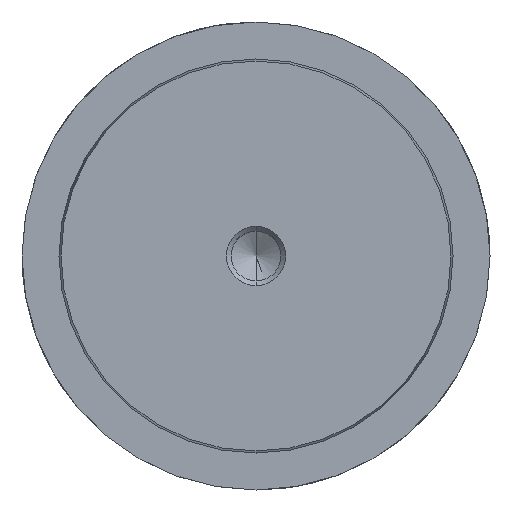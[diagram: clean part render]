
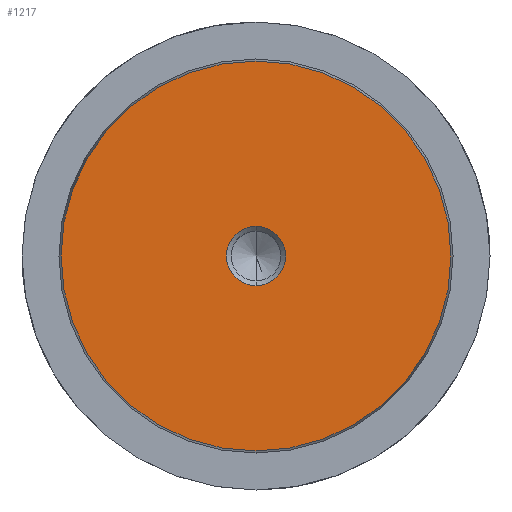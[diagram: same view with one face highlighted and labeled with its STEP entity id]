
A CAD part, left-side view. The second image highlights one B-rep face of the part: STEP entity #1217.
In plain terms, the highlighted planar face has unit normal (-1, 0, 0).
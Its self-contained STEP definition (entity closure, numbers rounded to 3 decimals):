
#1115=CARTESIAN_POINT('Vertex',(0.,0.,-39.578)) ;
#1118=CARTESIAN_POINT('Axis2P3D Location',(0.,0.,0.)) ;
#1122=CARTESIAN_POINT('Vertex',(0.,39.578,0.)) ;
#1125=CARTESIAN_POINT('Axis2P3D Location',(0.,0.,0.)) ;
#1129=CARTESIAN_POINT('Vertex',(0.,0.,39.578)) ;
#1151=CARTESIAN_POINT('Axis2P3D Location',(0.,0.,0.)) ;
#1155=CARTESIAN_POINT('Vertex',(0.,-39.578,0.)) ;
#1158=CARTESIAN_POINT('Axis2P3D Location',(0.,0.,0.)) ;
#1172=CARTESIAN_POINT('Axis2P3D Location',(0.,0.,0.)) ;
#1183=CARTESIAN_POINT('Axis2P3D Location',(0.,0.,0.)) ;
#1187=CARTESIAN_POINT('Vertex',(0.,6.,0.)) ;
#1189=CARTESIAN_POINT('Vertex',(0.,0.,6.)) ;
#1192=CARTESIAN_POINT('Axis2P3D Location',(0.,0.,0.)) ;
#1196=CARTESIAN_POINT('Vertex',(0.,-6.,0.)) ;
#1199=CARTESIAN_POINT('Axis2P3D Location',(0.,0.,0.)) ;
#1203=CARTESIAN_POINT('Vertex',(0.,0.,-6.)) ;
#1206=CARTESIAN_POINT('Axis2P3D Location',(0.,0.,0.)) ;
#1119=DIRECTION('Axis2P3D Direction',(1.,0.,-0.)) ;
#1126=DIRECTION('Axis2P3D Direction',(1.,0.,-0.)) ;
#1152=DIRECTION('Axis2P3D Direction',(1.,0.,-0.)) ;
#1159=DIRECTION('Axis2P3D Direction',(1.,0.,-0.)) ;
#1173=DIRECTION('Axis2P3D Direction',(1.,0.,-0.)) ;
#1174=DIRECTION('Axis2P3D XDirection',(-0.,0.,-1.)) ;
#1184=DIRECTION('Axis2P3D Direction',(1.,0.,-0.)) ;
#1193=DIRECTION('Axis2P3D Direction',(1.,0.,-0.)) ;
#1200=DIRECTION('Axis2P3D Direction',(1.,0.,-0.)) ;
#1207=DIRECTION('Axis2P3D Direction',(1.,0.,-0.)) ;
#1120=AXIS2_PLACEMENT_3D('Circle Axis2P3D',#1118,#1119,$) ;
#1127=AXIS2_PLACEMENT_3D('Circle Axis2P3D',#1125,#1126,$) ;
#1153=AXIS2_PLACEMENT_3D('Circle Axis2P3D',#1151,#1152,$) ;
#1160=AXIS2_PLACEMENT_3D('Circle Axis2P3D',#1158,#1159,$) ;
#1175=AXIS2_PLACEMENT_3D('Plane Axis2P3D',#1172,#1173,#1174) ;
#1185=AXIS2_PLACEMENT_3D('Circle Axis2P3D',#1183,#1184,$) ;
#1194=AXIS2_PLACEMENT_3D('Circle Axis2P3D',#1192,#1193,$) ;
#1201=AXIS2_PLACEMENT_3D('Circle Axis2P3D',#1199,#1200,$) ;
#1208=AXIS2_PLACEMENT_3D('Circle Axis2P3D',#1206,#1207,$) ;
#1178=ORIENTED_EDGE('',*,*,#1124,.F.) ;
#1179=ORIENTED_EDGE('',*,*,#1162,.F.) ;
#1180=ORIENTED_EDGE('',*,*,#1157,.F.) ;
#1181=ORIENTED_EDGE('',*,*,#1131,.F.) ;
#1212=ORIENTED_EDGE('',*,*,#1191,.T.) ;
#1213=ORIENTED_EDGE('',*,*,#1198,.T.) ;
#1214=ORIENTED_EDGE('',*,*,#1205,.T.) ;
#1215=ORIENTED_EDGE('',*,*,#1210,.T.) ;
#1216=FACE_BOUND('',#1211,.T.) ;
#1217=ADVANCED_FACE('718-80x355',(#1182,#1216),#1176,.F.) ;
#1121=CIRCLE('generated circle',#1120,39.578) ;
#1128=CIRCLE('generated circle',#1127,39.578) ;
#1154=CIRCLE('generated circle',#1153,39.578) ;
#1161=CIRCLE('generated circle',#1160,39.578) ;
#1186=CIRCLE('generated circle',#1185,6.) ;
#1195=CIRCLE('generated circle',#1194,6.) ;
#1202=CIRCLE('generated circle',#1201,6.) ;
#1209=CIRCLE('generated circle',#1208,6.) ;
#1124=EDGE_CURVE('',#1116,#1123,#1121,.T.) ;
#1131=EDGE_CURVE('',#1123,#1130,#1128,.T.) ;
#1157=EDGE_CURVE('',#1130,#1156,#1154,.T.) ;
#1162=EDGE_CURVE('',#1156,#1116,#1161,.T.) ;
#1191=EDGE_CURVE('',#1188,#1190,#1186,.T.) ;
#1198=EDGE_CURVE('',#1190,#1197,#1195,.T.) ;
#1205=EDGE_CURVE('',#1197,#1204,#1202,.T.) ;
#1210=EDGE_CURVE('',#1204,#1188,#1209,.T.) ;
#1177=EDGE_LOOP('',(#1178,#1179,#1180,#1181)) ;
#1211=EDGE_LOOP('',(#1212,#1213,#1214,#1215)) ;
#1182=FACE_OUTER_BOUND('',#1177,.T.) ;
#1176=PLANE('Plane',#1175) ;
#1116=VERTEX_POINT('',#1115) ;
#1123=VERTEX_POINT('',#1122) ;
#1130=VERTEX_POINT('',#1129) ;
#1156=VERTEX_POINT('',#1155) ;
#1188=VERTEX_POINT('',#1187) ;
#1190=VERTEX_POINT('',#1189) ;
#1197=VERTEX_POINT('',#1196) ;
#1204=VERTEX_POINT('',#1203) ;
